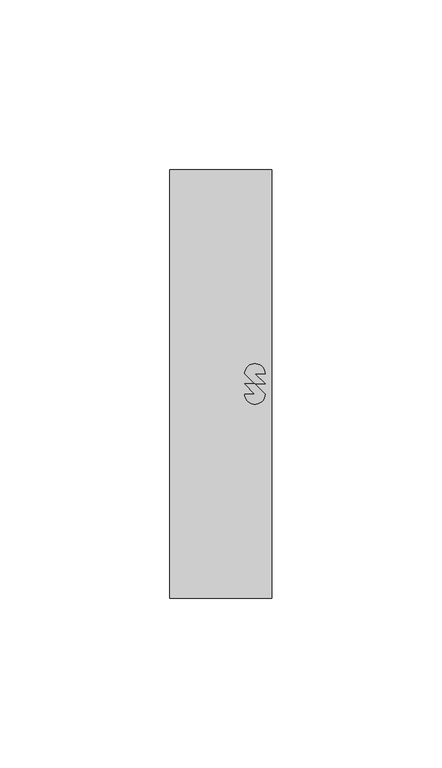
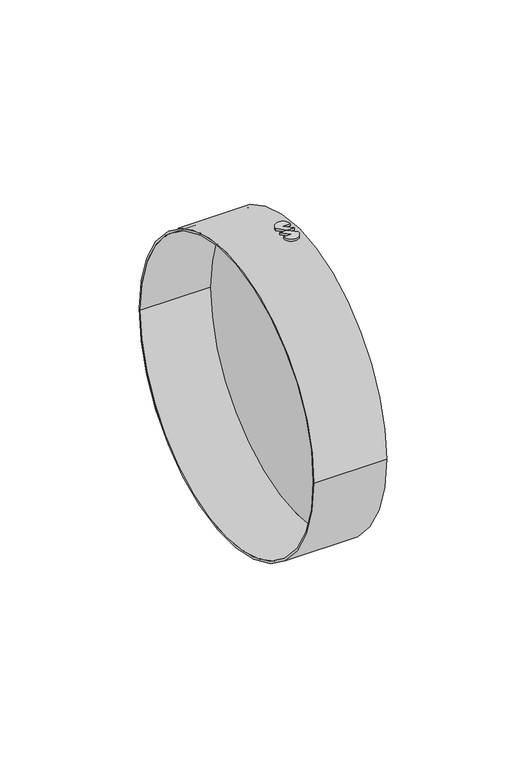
"""IFC4 building model written with IfcOpenShell, lengths in millimetres: duct fitting geometry, NLRS_57_DUF_UN_instortkanaal-rond-pvc-einddeksel_LT_velu : PVC Deksel rond."""

from ifc_helpers import new_model, si_unit, point, frame, frame_2d, origin, place, context, project, spatial, polyline, circle_curve, trimmed, segment, composite_curve, outline, extrude, source, transform, mapped, element, save
from ifc_brep_helpers import plane_surface, cylinder_surface, revolved_surface, advanced_brep


def duct_fitting_9172f450(model_context):
    return source(origin(), model_context, "Body", "SolidModel", [
        extrude(outline(composite_curve([segment(polyline([(-2.0, 3.0), (-5.0, 3.0), (-2.0, 0.0), (-5.0, 0.0), (-8.0, 3.0)]), True, "CONTINUOUS"), segment(trimmed(circle_curve(frame_2d((-5.0, 3.0)), 3.0), [point((-8.0, 3.0))], [point((-2.0, 3.0))], False, "CARTESIAN"), True, "CONTINUOUS")], self_intersect=False)), frame((0.0, 0.0, -64.0), z_axis=(0.0, 0.0, 1.0), x_axis=(1.0, 0.0, 0.0)), (0.0, 0.0, 1.0), 1.0),
        extrude(outline(composite_curve([segment(polyline([(-8.0, -3.0), (-5.0, -3.0), (-8.0, 0.0), (-5.0, 0.0), (-2.0, -3.0)]), True, "CONTINUOUS"), segment(trimmed(circle_curve(frame_2d((-5.0, -3.0)), 3.0), [point((-2.0, -3.0))], [point((-8.0, -3.0))], False, "CARTESIAN"), True, "CONTINUOUS")], self_intersect=False)), frame((0.0, 0.0, -64.0), z_axis=(0.0, 0.0, 1.0), x_axis=(1.0, 0.0, 0.0)), (0.0, 0.0, 1.0), 1.0),
        extrude(outline(composite_curve([segment(polyline([(-8.0, -3.0), (-5.0, -3.0), (-8.0, 0.0), (-5.0, 0.0), (-2.0, -3.0)]), True, "CONTINUOUS"), segment(trimmed(circle_curve(frame_2d((-5.0, -3.0)), 3.0), [point((-2.0, -3.0))], [point((-8.0, -3.0))], False, "CARTESIAN"), True, "CONTINUOUS")], self_intersect=False)), frame((0.0, 0.0, 63.0), z_axis=(0.0, 0.0, 1.0), x_axis=(1.0, 0.0, 0.0)), (0.0, 0.0, 1.0), 1.0),
        extrude(outline(composite_curve([segment(polyline([(-2.0, 3.0), (-5.0, 3.0), (-2.0, 0.0), (-5.0, 0.0), (-8.0, 3.0)]), True, "CONTINUOUS"), segment(trimmed(circle_curve(frame_2d((-5.0, 3.0)), 3.0), [point((-8.0, 3.0))], [point((-2.0, 3.0))], False, "CARTESIAN"), True, "CONTINUOUS")], self_intersect=False)), frame((0.0, 0.0, 63.0), z_axis=(0.0, 0.0, 1.0), x_axis=(1.0, 0.0, 0.0)), (0.0, 0.0, 1.0), 1.0),
        advanced_brep(
        [(0.0, 63.0, 0.0), (0.0, -63.0, 0.0), (-30.0, -63.0, 0.0), (-30.0, 63.0, 0.0), (-30.0, 62.0, 0.0), (-30.0, -62.0, 0.0), (-1.0, -62.0, 0.0), (-1.0, 62.0, 0.0)],
        [
            (0, 1, circle_curve(frame((0.0, 0.0, 0.0), z_axis=(-1.0, 0.0, 0.0), x_axis=(0.0, -1.0, 0.0)), 63.0)),
            (1, 2),
            (2, 3, circle_curve(frame((-30.0, 0.0, 0.0), z_axis=(1.0, 0.0, 0.0), x_axis=(0.0, -1.0, 0.0)), 63.0)),
            (3, 0),
            (4, 5, circle_curve(frame((-30.0, 0.0, 0.0), z_axis=(-1.0, 0.0, 0.0), x_axis=(0.0, -1.0, 0.0)), 62.0)),
            (5, 6),
            (6, 7, circle_curve(frame((-1.0, 0.0, 0.0), z_axis=(1.0, 0.0, 0.0), x_axis=(0.0, -1.0, 0.0)), 62.0)),
            (7, 4),
            (1, 0, circle_curve(frame((0.0, 0.0, 0.0), z_axis=(-1.0, 0.0, 0.0), x_axis=(0.0, 1.0, 0.0)), 63.0)),
            (3, 2, circle_curve(frame((-30.0, 0.0, 0.0), z_axis=(1.0, 0.0, 0.0), x_axis=(0.0, 1.0, 0.0)), 63.0)),
            (5, 4, circle_curve(frame((-30.0, 0.0, 0.0), z_axis=(-1.0, 0.0, 0.0), x_axis=(0.0, 1.0, 0.0)), 62.0)),
            (7, 6, circle_curve(frame((-1.0, 0.0, 0.0), z_axis=(1.0, 0.0, 0.0), x_axis=(0.0, 1.0, 0.0)), 62.0)),
        ],
        [
            cylinder_surface(frame((0.0, 0.0, 0.0), z_axis=(1.0, 0.0, 0.0), x_axis=(0.0, -1.0, 0.0)), 63.0),
            revolved_surface(polyline([(-1.0, -62.0, 0.0), (-30.0, -62.0, 0.0)]), (0.0, 0.0, 0.0), (1.0, 0.0, 0.0)),
            cylinder_surface(frame((0.0, 0.0, 0.0), z_axis=(1.0, 0.0, 0.0), x_axis=(0.0, 1.0, 0.0)), 63.0),
            plane_surface(frame((0.0, 0.0, 0.0), z_axis=(1.0, 0.0, 0.0), x_axis=(0.0, 1.0, 0.0))),
            revolved_surface(polyline([(-1.0, 62.0, 0.0), (-30.0, 62.0, 0.0)]), (0.0, 0.0, 0.0), (1.0, 0.0, 0.0)),
            plane_surface(frame((-30.0, 0.0, 0.0), z_axis=(-1.0, 0.0, 0.0), x_axis=(0.0, 1.0, 0.0))),
            plane_surface(frame((-1.0, 62.5, 0.0), z_axis=(-1.0, 0.0, 0.0), x_axis=(0.0, 0.0, -1.0))),
        ],
        [
            (0, [[1, 2, 3, 4]]),
            (1, [[5, 6, 7, 8]]),
            (2, [[-2, 9, -4, 10]]),
            (3, [[-1, -9]]),
            (4, [[11, -8, 12, -6]]),
            (5, [[-3, -10], [-5, -11]]),
            (6, [[-7, -12]]),
        ],
    ),
    ])


if __name__ == "__main__":
    model = new_model("IFC4")
    model_context = context("Model", 3, world=origin())
    ifc_project = project(units=[si_unit("LENGTHUNIT", "METRE", prefix="MILLI")], contexts=[model_context])
    site = spatial("IfcSite", under=ifc_project)
    building = spatial("IfcBuilding", under=site)
    placement = place(None, origin())
    duct_fitting_shape = duct_fitting_9172f450(model_context)
    element("IfcDuctFitting", 1, ObjectType="NLRS_57_DUF_UN_instortkanaal-rond-pvc-einddeksel_LT_velu : PVC Deksel rond", at=placement, inside=building, context=model_context, shape_type="MappedRepresentation", body=[
        mapped(duct_fitting_shape, transform((0.0, 0.0, 0.0), x_axis=(1.0, 0.0, 0.0), y_axis=(0.0, 1.0, 0.0), z_axis=(0.0, 0.0, 1.0))),
    ])
    save(model, "model.ifc")
